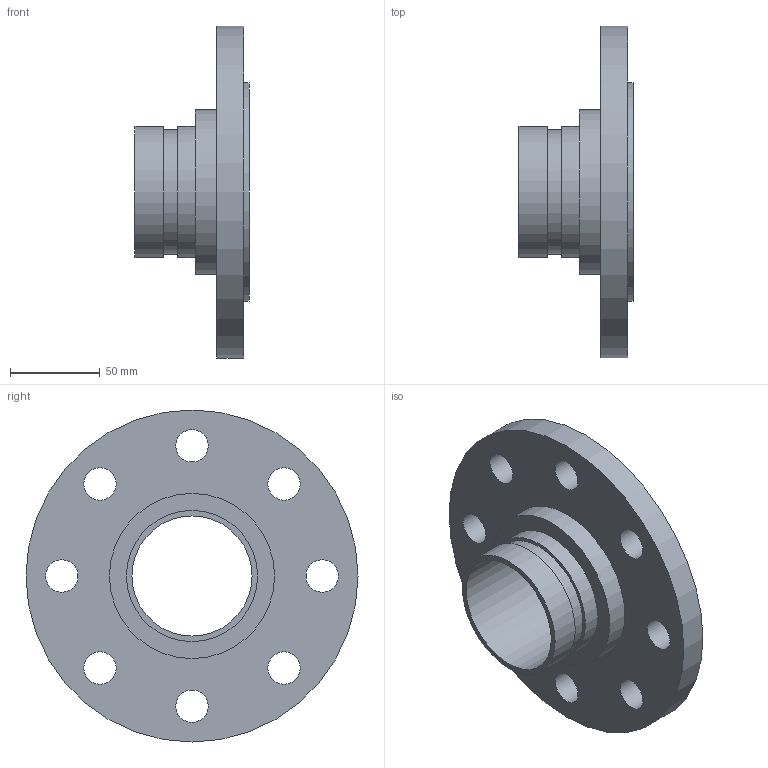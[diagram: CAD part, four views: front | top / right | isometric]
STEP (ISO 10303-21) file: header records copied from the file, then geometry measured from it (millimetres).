
FILE_DESCRIPTION(/* description */ ('VIC FLANGE ADAPTER STYLE 441N','CAx-IF Rec.Pracs.---Representation and Presentation of Product Manufacturing Information (PMI)---4.0---2014-10-13'),/* implementation_level */ '2;1');
FILE_NAME(/* name */ 'C:\Users\kkamble\AppData\Roaming\Autodesk\ApplicationPlugins\Back Up\Victaulic_SS-OGS_Flanged Adapter Nipple_PN10_Style 441N (OGSxFLG)\Victaulic_SS-OGS_Flanged Adapter Nipple_PN10_Style 441N (OGSxFLG)_2.5 (65).stp',/* time_stamp */ '2020-08-27T09:31:38+05:00',/* author */ ('jbrannon'),/* organization */ ('Victaulic'),/* preprocessor_version */ 'ST-DEVELOPER v17.2',/* originating_system */ 'Autodesk Inventor 2019',/* authorisation */ '');
FILE_SCHEMA (('AP242_MANAGED_MODEL_BASED_3D_ENGINEERING_MIM_LF { 1 0 10303 442 1 1 4 }'));
Length unit declared in the file: inch
Products named in the file (1): 441N-02.5
Bounding box: 63.5 x 184.91 x 184.91 mm (x, y, z)
Volume: 400200.2 mm3; surface area: 84524 mm2
Topology: 1 solids, 1 shells, 22 faces, 59 edges, 44 vertices
Faces by surface type: cylinder 15, plane 7
Full cylindrical faces by diameter (mm): 18.034 x8, 66.929 x1, 69.088 x1, 73.025 x2, 91.948 x1, 121.92 x1, 184.912 x1
Entity records: 929 total; most frequent: DIRECTION 175, CARTESIAN_POINT 143, ORIENTED_EDGE 118, AXIS2_PLACEMENT_3D 80, EDGE_CURVE 59, EDGE_LOOP 45, CIRCLE 44, VERTEX_POINT 44
